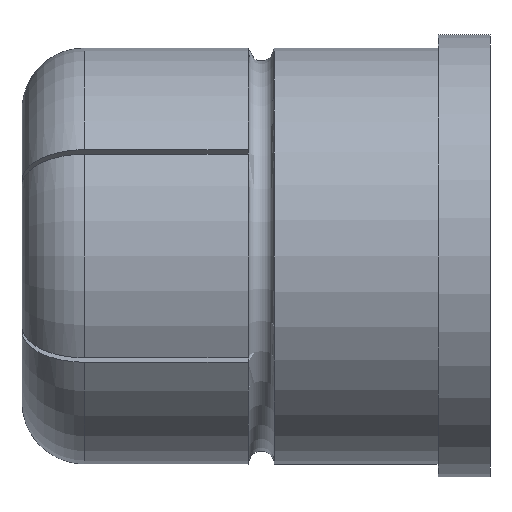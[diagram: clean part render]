
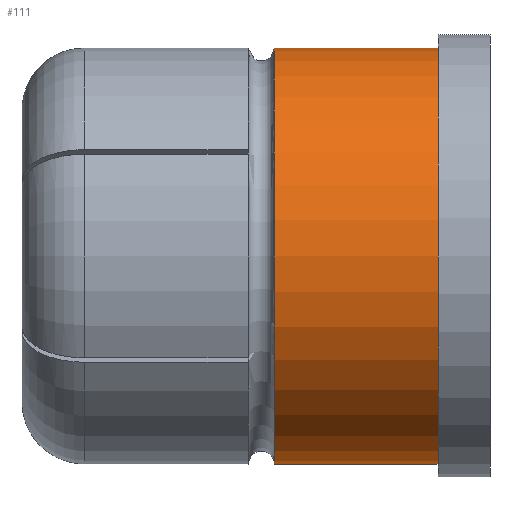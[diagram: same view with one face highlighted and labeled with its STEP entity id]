
A CAD part, front view. The second image highlights one B-rep face of the part: STEP entity #111.
In plain terms, the highlighted cylindrical face has radius 4 mm (diameter 8 mm), a full revolution.
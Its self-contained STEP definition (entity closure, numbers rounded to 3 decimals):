
#111 = ADVANCED_FACE( '', ( #216, #217 ), #218, .T. );
#216 = FACE_OUTER_BOUND( '', #349, .T. );
#217 = FACE_OUTER_BOUND( '', #350, .T. );
#218 = CYLINDRICAL_SURFACE( '', #351, 4. );
#349 = EDGE_LOOP( '', ( #712 ) );
#350 = EDGE_LOOP( '', ( #713 ) );
#351 = AXIS2_PLACEMENT_3D( '', #714, #715, #716 );
#712 = ORIENTED_EDGE( '', *, *, #1045, .F. );
#713 = ORIENTED_EDGE( '', *, *, #1046, .T. );
#714 = CARTESIAN_POINT( '', ( 1., 0., 0. ) );
#715 = DIRECTION( '', ( -1., 0., 0. ) );
#716 = DIRECTION( '', ( 0., 0., -1. ) );
#1045 = EDGE_CURVE( '', #1303, #1303, #1304, .T. );
#1046 = EDGE_CURVE( '', #1305, #1305, #1306, .T. );
#1303 = VERTEX_POINT( '', #1801 );
#1304 = CIRCLE( '', #1802, 4. );
#1305 = VERTEX_POINT( '', #1803 );
#1306 = CIRCLE( '', #1804, 4. );
#1801 = CARTESIAN_POINT( '', ( 0., 0., -4. ) );
#1802 = AXIS2_PLACEMENT_3D( '', #2018, #2019, #2020 );
#1803 = CARTESIAN_POINT( '', ( -3.15, 0., -4. ) );
#1804 = AXIS2_PLACEMENT_3D( '', #2021, #2022, #2023 );
#2018 = CARTESIAN_POINT( '', ( 0., 0., 0. ) );
#2019 = DIRECTION( '', ( 1., 0., 0. ) );
#2020 = DIRECTION( '', ( 0., 0., -1. ) );
#2021 = CARTESIAN_POINT( '', ( -3.15, 0., 0. ) );
#2022 = DIRECTION( '', ( 1., 0., 0. ) );
#2023 = DIRECTION( '', ( 0., 0., -1. ) );
